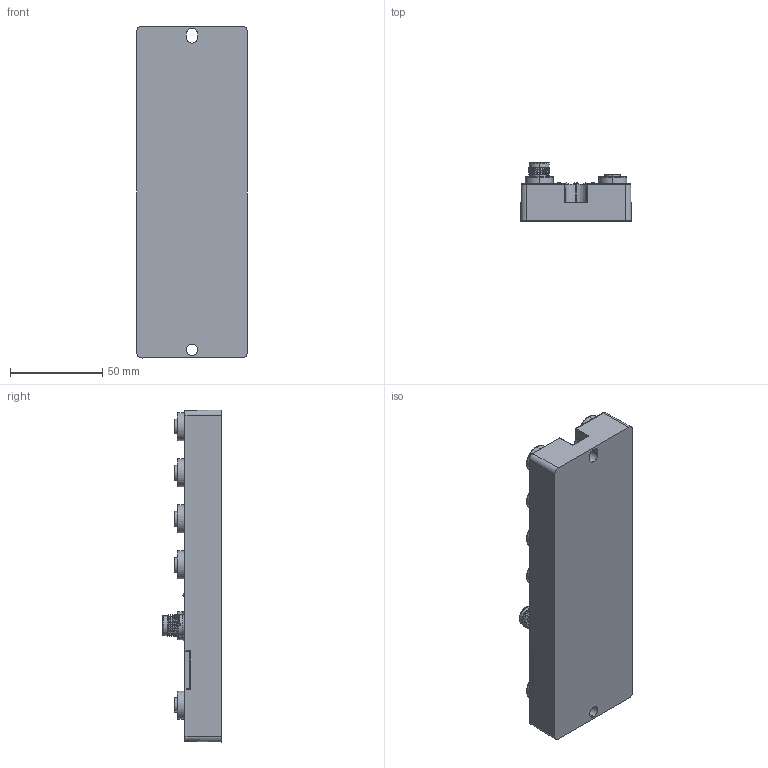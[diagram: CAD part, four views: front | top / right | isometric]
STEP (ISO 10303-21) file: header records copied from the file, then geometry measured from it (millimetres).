
FILE_DESCRIPTION (( 'STEP AP214' ), '1' );
FILE_NAME ('改版金属模块（改）.STEP', '2023-05-09T10:36:49', ( '' ), ( '' ), 'SwSTEP 2.0', 'SolidWorks 2018', '' );
FILE_SCHEMA (( 'AUTOMOTIVE_DESIGN' ));
Length unit declared in the file: millimetre
Products named in the file (1): 蜊唳踢扽耀輸ㄗ蜊ㄘ
Bounding box: 60 x 31.8 x 180 mm (x, y, z)
Volume: 215296.2 mm3; surface area: 44696.5 mm2
Topology: 1 solids, 1 shells, 1815 faces, 4403 edges, 2707 vertices
Faces by surface type: cylinder 749, plane 532, bspline 313, cone 183, sphere 38
Entity records: 61457 total; most frequent: CARTESIAN_POINT 20890, ORIENTED_EDGE 8688, DIRECTION 8387, EDGE_CURVE 4344, AXIS2_PLACEMENT_3D 3156, VERTEX_POINT 2682, LINE 2075, VECTOR 2075
